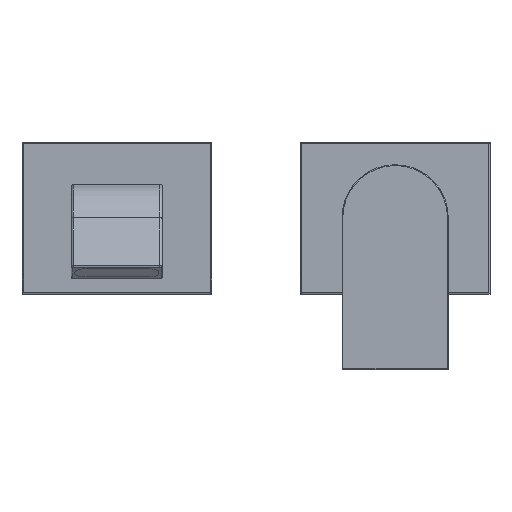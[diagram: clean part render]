
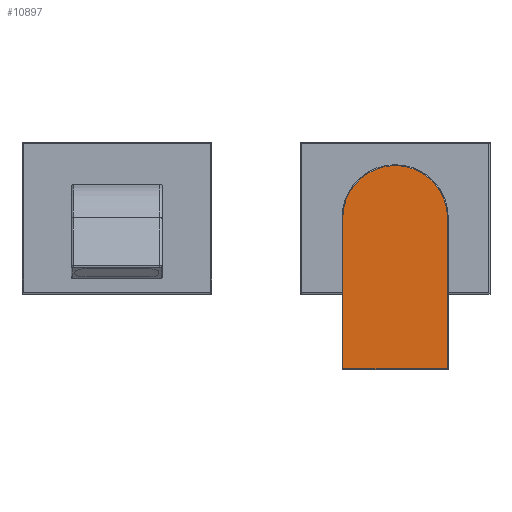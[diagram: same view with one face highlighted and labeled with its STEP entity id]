
A CAD part, top view. The second image highlights one B-rep face of the part: STEP entity #10897.
In plain terms, the highlighted planar face has unit normal (0, 0, 1).
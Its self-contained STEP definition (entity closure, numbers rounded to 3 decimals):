
#8953=DIRECTION('',(1.,0.,0.));
#8954=VECTOR('',#8953,41.4);
#8955=CARTESIAN_POINT('',(-22.7,-59.7,106.4));
#8956=LINE('',#8955,#8954);
#8957=DIRECTION('',(0.,-1.,0.));
#8958=VECTOR('',#8957,59.7);
#8959=CARTESIAN_POINT('',(-22.7,0.,106.4));
#8960=LINE('',#8959,#8958);
#8961=CARTESIAN_POINT('',(-2.,0.,106.4));
#8962=DIRECTION('',(0.,0.,1.));
#8963=DIRECTION('',(1.,0.,0.));
#8964=AXIS2_PLACEMENT_3D('',#8961,#8962,#8963);
#8966=DIRECTION('',(0.,1.,0.));
#8967=VECTOR('',#8966,59.7);
#8968=CARTESIAN_POINT('',(18.7,-59.7,106.4));
#8969=LINE('',#8968,#8967);
#10644=CARTESIAN_POINT('',(18.7,0.,106.4));
#10645=CARTESIAN_POINT('',(-22.7,0.,106.4));
#10646=VERTEX_POINT('',#10644);
#10647=VERTEX_POINT('',#10645);
#10668=CARTESIAN_POINT('',(-22.7,-59.7,106.4));
#10669=VERTEX_POINT('',#10668);
#10670=CARTESIAN_POINT('',(18.7,-59.7,106.4));
#10671=VERTEX_POINT('',#10670);
#10884=CARTESIAN_POINT('',(-2.,0.,106.4));
#10885=DIRECTION('',(0.,0.,1.));
#10886=DIRECTION('',(1.,0.,0.));
#10887=AXIS2_PLACEMENT_3D('',#10884,#10885,#10886);
#10888=PLANE('',#10887);
#10890=ORIENTED_EDGE('',*,*,#10889,.F.);
#10891=ORIENTED_EDGE('',*,*,#10864,.F.);
#10892=ORIENTED_EDGE('',*,*,#10874,.F.);
#10894=ORIENTED_EDGE('',*,*,#10893,.F.);
#10895=EDGE_LOOP('',(#10890,#10891,#10892,#10894));
#10896=FACE_OUTER_BOUND('',#10895,.F.);
#10897=ADVANCED_FACE('',(#10896),#10888,.T.);
#8965=CIRCLE('',#8964,20.7);
#10864=EDGE_CURVE('',#10647,#10669,#8960,.T.);
#10874=EDGE_CURVE('',#10646,#10647,#8965,.T.);
#10889=EDGE_CURVE('',#10669,#10671,#8956,.T.);
#10893=EDGE_CURVE('',#10671,#10646,#8969,.T.);
